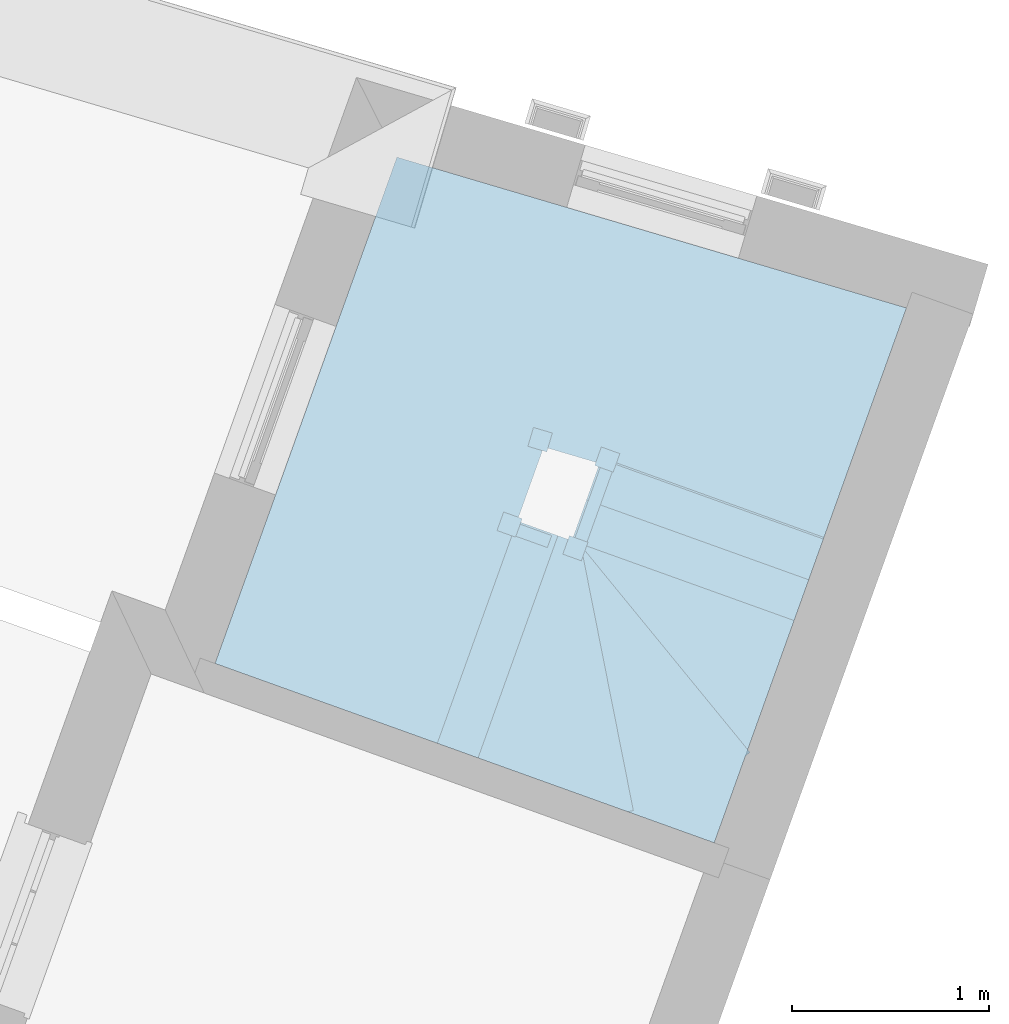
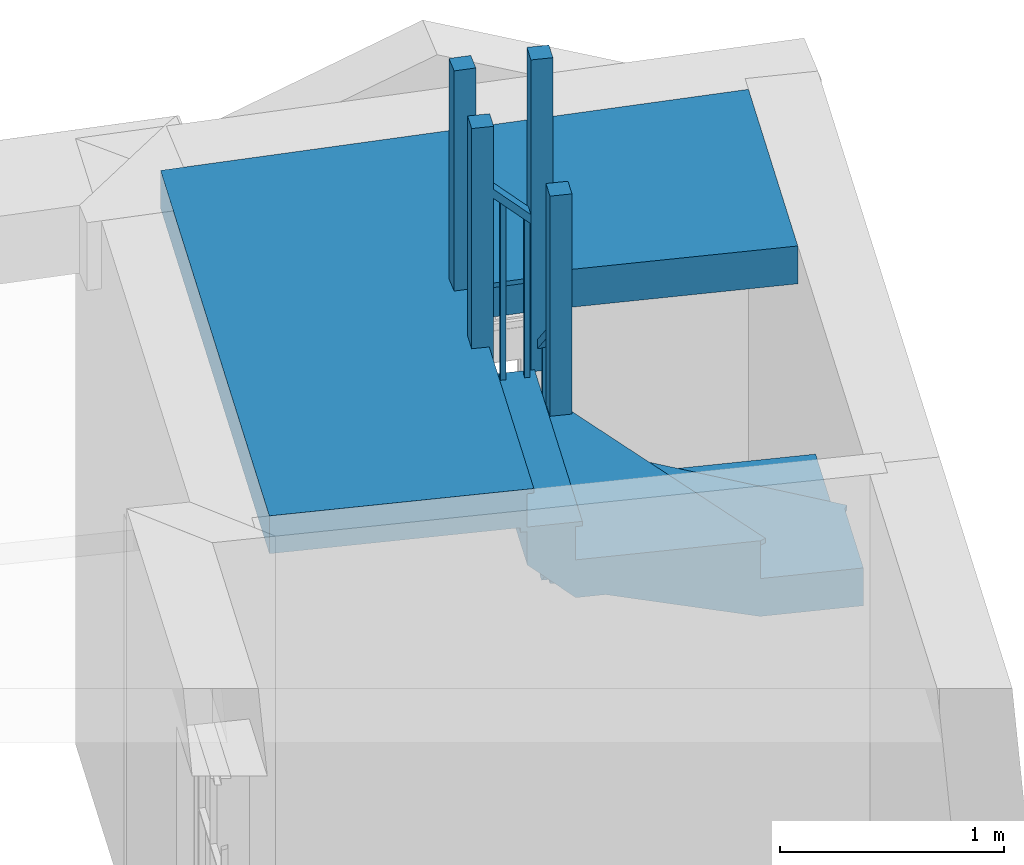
# One storey, part 4 of 4: 1 stair.
"""IFC4 building model written with IfcOpenShell, lengths in metres."""

import ifcopenshell
import ifcopenshell.guid

model = None  # the IFC model being written
_history = None  # IfcOwnerHistory: only IFC2X3 demands one
_inside = {}  # id of a spatial element -> (the spatial element, [elements in it])
_under = {}  # id of a project, library or spatial element -> (it, [spatial elements below it])
_declared = {}  # id of a project -> (the project, [libraries it declares])
_typed = {}  # id of a type object -> (the type object, [elements of that type])
_made_of = {}  # id of a material, layer set ... -> (it, [elements and type objects made of it])


def new_model(schema):
    """Start an empty IFC model of exactly this schema.

    Asked for "IFC4X3", IfcOpenShell would pick the latest addendum, in which some entities
    have other attributes; the version numbers below select the first issue.
    IFC2X3 requires an IfcOwnerHistory on every rooted entity: one is made here for all.
    """
    global model, _history
    if schema == "IFC4X3":
        model = ifcopenshell.file(schema_version=(4, 3, 0, 0))
    else:
        model = ifcopenshell.file(schema=schema)
    _inside.clear()
    _under.clear()
    _declared.clear()
    _typed.clear()
    _made_of.clear()
    _history = None
    if model.schema == "IFC2X3":
        org = make("IfcOrganization", Name="unknown")
        user = make(
            "IfcPersonAndOrganization",
            ThePerson=make("IfcPerson", FamilyName="unknown"),
            TheOrganization=org,
        )
        app = make(
            "IfcApplication",
            ApplicationDeveloper=org,
            Version="unknown",
            ApplicationFullName="unknown",
            ApplicationIdentifier="unknown",
        )
        _history = make(
            "IfcOwnerHistory",
            OwningUser=user,
            OwningApplication=app,
            ChangeAction="ADDED",
            CreationDate=0,
        )
    return model


def make(cls, **values):
    """One entity of the class cls with the attributes given. An attribute that is None is left unset."""
    return model.create_entity(
        cls, **{name: value for name, value in values.items() if value is not None}
    )


def rooted(cls, **values):
    """An entity with a GlobalId (a new one), such as an element, a storey or a relation."""
    return make(cls, GlobalId=ifcopenshell.guid.new(), OwnerHistory=_history, **values)


def si_unit(unit_type, name, prefix=None):
    """IfcSIUnit, for example si_unit("LENGTHUNIT", "METRE", prefix="MILLI")."""
    return make("IfcSIUnit", UnitType=unit_type, Prefix=prefix, Name=name)


def assignment(units):
    """IfcUnitAssignment: the units of a project."""
    return None if units is None else make("IfcUnitAssignment", Units=units)


def point(xyz):
    """IfcCartesianPoint."""
    return None if xyz is None else make("IfcCartesianPoint", Coordinates=xyz)


def direction(xyz):
    """IfcDirection."""
    return None if xyz is None else make("IfcDirection", DirectionRatios=xyz)


def frame(location, z_axis=None, x_axis=None):
    """IfcAxis2Placement3D, a coordinate frame: its origin and axes. An axis left out is left unset."""
    return make(
        "IfcAxis2Placement3D",
        Location=point(location),
        Axis=direction(z_axis),
        RefDirection=direction(x_axis),
    )


def origin():
    """The frame at (0, 0, 0) with its axes left unset."""
    return frame((0.0, 0.0, 0.0))


def origin_with_axes():
    """The frame at (0, 0, 0) with the z axis (0, 0, 1) and the x axis (1, 0, 0) written out."""
    return frame((0.0, 0.0, 0.0), z_axis=(0.0, 0.0, 1.0), x_axis=(1.0, 0.0, 0.0))


def place(relative_to, where):
    """IfcLocalPlacement: puts the frame where relative to a parent placement (None: the world)."""
    return make(
        "IfcLocalPlacement", PlacementRelTo=relative_to, RelativePlacement=where
    )


def context(
    kind, dimensions, precision=None, world=None, true_north=None, identifier=None
):
    """IfcGeometricRepresentationContext, for example the 3D "Model" context."""
    return make(
        "IfcGeometricRepresentationContext",
        ContextIdentifier=identifier,
        ContextType=kind,
        CoordinateSpaceDimension=dimensions,
        Precision=precision,
        WorldCoordinateSystem=world,
        TrueNorth=true_north,
    )


def subcontext(parent, identifier, kind, view, scale=None):
    """IfcGeometricRepresentationSubContext, for example "Body" below "Model"."""
    return make(
        "IfcGeometricRepresentationSubContext",
        ContextIdentifier=identifier,
        ContextType=kind,
        ParentContext=parent,
        TargetScale=scale,
        TargetView=view,
    )


def project(units=None, contexts=None):
    """IfcProject with its units and contexts."""
    return rooted(
        "IfcProject",
        Name="project",
        RepresentationContexts=contexts,
        UnitsInContext=assignment(units),
    )


def spatial(cls, under=None, at=None, **own):
    """A site, building, storey or space (cls), placed at a placement, below another one or the project."""
    s = rooted(cls, ObjectPlacement=at, **own)
    if under is not None:
        _under.setdefault(under.id(), (under, []))[1].append(s)
    return s


def faces_of(points, faces, orient=None, outer=None):
    """IfcFace entities. A face is a list of loops; a loop is a list of indices into points, from 0.

    orient and outer hold one flag for each loop. By default every Orientation is true, the
    first loop of a face is its IfcFaceOuterBound and the others are IfcFaceBound.
    """
    made = []
    for i, loops in enumerate(faces):
        bounds = []
        for j, loop in enumerate(loops):
            is_outer = j == 0 if outer is None else outer[i][j]
            bounds.append(
                make(
                    "IfcFaceOuterBound" if is_outer else "IfcFaceBound",
                    Bound=make("IfcPolyLoop", Polygon=[points[k] for k in loop]),
                    Orientation=True if orient is None else orient[i][j],
                )
            )
        made.append(make("IfcFace", Bounds=bounds))
    return made


def faceted_brep(points, faces, orient=None, outer=None, voids=None):
    """IfcFacetedBrep: a solid bounded by flat faces; with voids (closed shells), ...WithVoids."""
    shared = [point(p) for p in points]
    hull = make("IfcClosedShell", CfsFaces=faces_of(shared, faces, orient, outer))
    if voids is None:
        return make("IfcFacetedBrep", Outer=hull)
    return make(
        "IfcFacetedBrepWithVoids",
        Outer=hull,
        Voids=[
            make(cls, CfsFaces=faces_of(shared, fs, o, b)) for cls, fs, o, b in voids
        ],
    )


def shape(context_of_items, identifier, shape_type, items):
    """IfcShapeRepresentation: the items that make up one representation, for example the "Body"."""
    return make(
        "IfcShapeRepresentation",
        ContextOfItems=context_of_items,
        RepresentationIdentifier=identifier,
        RepresentationType=shape_type,
        Items=items,
    )


def made_of(thing, what):
    """Note that an element or type object is made of a material, layer set ...; save() writes the relation."""
    if what is not None:
        _made_of.setdefault(what.id(), (what, []))[1].append(thing)
    return thing


def element(
    cls,
    number,
    at=None,
    inside=None,
    cuts=None,
    type_object=None,
    material=None,
    context=None,
    identifier="Body",
    shape_type=None,
    held_by="IfcProductDefinitionShape",
    body=None,
    shapes=None,
    **own,
):
    """One element of the class cls, such as IfcWall. Its Tag is "e" and its number.

    at: its placement. inside: the storey or other place that contains it. cuts: it is an
    opening in that element (IfcRelVoidsElement). A single representation is given by context,
    identifier, shape_type and body (its items); several are given by shapes. held_by: the class
    of the entity that holds the representations. save() writes the other relations.
    """
    e = rooted(cls, Tag="e%d" % number, ObjectPlacement=at, **own)
    if body is not None:
        shapes = [shape(context, identifier, shape_type, body)]
    if shapes is not None:
        e.Representation = make(held_by, Representations=shapes)
    if inside is not None:
        _inside.setdefault(inside.id(), (inside, []))[1].append(e)
    if cuts is not None:
        rooted(
            "IfcRelVoidsElement", RelatingBuildingElement=cuts, RelatedOpeningElement=e
        )
    if type_object is not None:
        _typed.setdefault(type_object.id(), (type_object, []))[1].append(e)
    return made_of(e, material)


def aggregate(whole, parts):
    """IfcRelAggregates: a whole, such as a stair, and the parts it consists of."""
    return rooted("IfcRelAggregates", RelatingObject=whole, RelatedObjects=parts)


def save(model, path):
    """Write the relations noted so far, then the file.

    IfcRelAggregates (storeys below a building ...), IfcRelContainedInSpatialStructure (elements
    in a storey), IfcRelDefinesByType, IfcRelAssociatesMaterial and IfcRelDeclares: one each for
    every whole, place, type object, material and project.
    """
    for whole, parts in _under.values():
        aggregate(whole, parts)
    for where, things in _inside.values():
        rooted(
            "IfcRelContainedInSpatialStructure",
            RelatedElements=things,
            RelatingStructure=where,
        )
    for kind, things in _typed.values():
        rooted("IfcRelDefinesByType", RelatedObjects=things, RelatingType=kind)
    for what, things in _made_of.values():
        rooted("IfcRelAssociatesMaterial", RelatedObjects=things, RelatingMaterial=what)
    for by, libraries in _declared.values():
        rooted("IfcRelDeclares", RelatingContext=by, RelatedDefinitions=libraries)
    model.write(path)


model = new_model("IFC4")

# Units and contexts
model_context = context("Model", 3, world=origin_with_axes())
body_context = subcontext(model_context, "Body", "Model", "MODEL_VIEW")
ifc_project = project(units=[si_unit("PLANEANGLEUNIT", "RADIAN"), si_unit("MASSUNIT", "GRAM", prefix="KILO"), si_unit("FORCEUNIT", "NEWTON", prefix="KILO"), si_unit("LENGTHUNIT", "METRE"), si_unit("AREAUNIT", "SQUARE_METRE"), si_unit("VOLUMEUNIT", "CUBIC_METRE")], contexts=[model_context, model_context])

# Sites, building, storey
site_1_placement = place(None, origin_with_axes())
site_1 = spatial("IfcSite", under=ifc_project, at=site_1_placement, Name="Tamar")
site_2_placement = place(site_1_placement, origin_with_axes())
site_2 = spatial("IfcSite", under=site_1, at=site_2_placement, Name="Site plot-24", CompositionType="ELEMENT")
building_placement = place(None, origin_with_axes())
building = spatial("IfcBuilding", under=site_2, at=building_placement, Name="Building plot-24", CompositionType="ELEMENT")
storey_placement = place(None, frame((0.0, 0.0, 26.0), z_axis=(0.0, 0.0, 1.0), x_axis=(1.0, 0.0, 0.0)))
storey = spatial("IfcBuildingStorey", under=building, at=storey_placement, Name="plot-24 0", CompositionType="ELEMENT", Elevation=26.0)

# Stair
stair_placement = place(None, origin())
element("IfcStair", 1, at=stair_placement, inside=storey, Name="Stair", PredefinedType="NOTDEFINED", context=body_context, shape_type="Brep", body=[
    faceted_brep([(274.248224, 278.266553, 29.3), (273.147152, 278.662205, 29.3), (272.992165, 278.230887, 29.3), (274.093237, 277.835235, 29.3), (274.093237, 277.835235, 29.09375), (272.992165, 278.230887, 29.09375), (273.147152, 278.662205, 29.09375), (274.248224, 278.266553, 29.09375)], [[[0, 1, 2, 3]], [[4, 5, 6, 7]], [[7, 6, 1, 0]], [[6, 5, 2, 1]], [[5, 4, 3, 2]], [[4, 7, 0, 3]]]),
    faceted_brep([(274.12147, 277.82509, 29.275), (274.12147, 277.82509, 29.3), (274.093237, 277.835235, 29.275), (274.276456, 278.256408, 29.3), (274.276456, 278.256408, 29.275), (274.248224, 278.266553, 29.275), (274.093237, 277.835235, 29.3), (274.248224, 278.266553, 29.3)], [[[0, 1, 2]], [[3, 4, 5]], [[2, 1, 6]], [[3, 5, 7]], [[6, 1, 3, 7]], [[2, 6, 7, 5]], [[0, 2, 5, 4]], [[1, 0, 4, 3]]]),
    faceted_brep([(274.123383, 277.771272, 30.5), (274.157199, 277.865381, 30.5), (274.063091, 277.899197, 30.5), (274.029274, 277.805089, 30.5), (274.029274, 277.805089, 29.3), (274.063091, 277.899197, 29.3), (274.157199, 277.865381, 29.3), (274.123383, 277.771272, 29.3)], [[[0, 1, 2, 3]], [[4, 5, 6, 7]], [[7, 6, 1, 0]], [[6, 5, 2, 1]], [[5, 4, 3, 2]], [[4, 7, 0, 3]]]),
    faceted_brep([(274.093237, 277.835235, 29.3), (272.992165, 278.230887, 29.3), (272.596513, 277.129815, 29.3), (273.697585, 276.734163, 29.3), (273.697585, 276.734163, 29.09375), (272.596513, 277.129815, 29.09375), (272.992165, 278.230887, 29.09375), (274.093237, 277.835235, 29.09375)], [[[0, 1, 2, 3]], [[4, 5, 6, 7]], [[7, 6, 1, 0]], [[6, 5, 2, 1]], [[5, 4, 3, 2]], [[4, 7, 0, 3]]]),
    faceted_brep([(273.725818, 276.724018, 29.275), (273.725818, 276.724018, 29.3), (273.697585, 276.734163, 29.275), (274.12147, 277.82509, 29.3), (274.12147, 277.82509, 29.275), (274.093237, 277.835235, 29.275), (273.697585, 276.734163, 29.3), (274.093237, 277.835235, 29.3)], [[[0, 1, 2]], [[3, 4, 5]], [[2, 1, 6]], [[3, 5, 7]], [[6, 1, 3, 7]], [[2, 6, 7, 5]], [[0, 2, 5, 4]], [[1, 0, 4, 3]]]),
    faceted_brep([(274.123383, 277.771272, 29.3), (274.157199, 277.865381, 29.3), (274.063091, 277.899197, 29.3), (274.029274, 277.805089, 29.3), (274.029274, 277.805089, 28.8), (274.063091, 277.899197, 28.8), (274.157199, 277.865381, 28.8), (274.123383, 277.771272, 28.8)], [[[0, 1, 2, 3]], [[4, 5, 6, 7]], [[7, 6, 1, 0]], [[6, 5, 2, 1]], [[5, 4, 3, 2]], [[4, 7, 0, 3]]]),
    faceted_brep([(274.093237, 277.835235, 29.09375), (273.697585, 276.734163, 29.09375), (273.904624, 276.659767, 29.09375), (274.300276, 277.760839, 29.09375), (274.300276, 277.760839, 28.68125), (273.904624, 276.659767, 28.68125), (273.697585, 276.734163, 28.8875), (274.093237, 277.835235, 28.8875)], [[[0, 1, 2, 3]], [[4, 5, 6, 7]], [[7, 6, 1, 0]], [[1, 6, 5, 2]], [[5, 4, 3, 2]], [[3, 4, 7, 0]]]),
    faceted_brep([(273.904624, 276.659767, 29.06875), (273.932857, 276.649622, 29.06875), (273.904624, 276.659767, 29.09375), (273.669352, 276.744308, 29.06875), (273.697585, 276.734163, 29.06875), (273.697585, 276.734163, 29.09375), (273.932857, 276.649622, 29.09375), (273.669352, 276.744308, 29.09375), (274.338654, 277.778926, 29.09375), (274.300276, 277.760839, 29.09375), (274.300276, 277.760839, 29.06875), (274.338654, 277.778926, 29.06875), (274.075149, 277.873612, 29.09375), (274.093237, 277.835235, 29.09375), (274.093237, 277.835235, 29.06875), (274.075149, 277.873612, 29.06875)], [[[0, 1, 2]], [[3, 4, 5]], [[1, 6, 2]], [[7, 3, 5]], [[2, 6, 8, 9]], [[0, 2, 9, 10]], [[1, 0, 10, 11]], [[6, 1, 11, 8]], [[9, 8, 12, 13]], [[10, 9, 13, 14]], [[11, 10, 14, 15]], [[8, 11, 15, 12]], [[13, 12, 7, 5]], [[14, 13, 5, 4]], [[15, 14, 4, 3]], [[12, 15, 3, 7]]]),
    faceted_brep([(274.300276, 277.760839, 29.99375), (274.276749, 277.769293, 29.99375), (274.268295, 277.745766, 29.99375), (274.291822, 277.737312, 29.99375), (274.291822, 277.737312, 29.09375), (274.268295, 277.745766, 29.09375), (274.276749, 277.769293, 29.09375), (274.300276, 277.760839, 29.09375)], [[[0, 1, 2, 3]], [[4, 5, 6, 7]], [[7, 6, 1, 0]], [[6, 5, 2, 1]], [[5, 4, 3, 2]], [[4, 7, 0, 3]]]),
    faceted_brep([(274.196756, 277.798037, 30.096875), (274.173229, 277.806491, 30.096875), (274.164775, 277.782964, 30.096875), (274.188302, 277.77451, 30.096875), (274.188302, 277.77451, 29.09375), (274.164775, 277.782964, 29.09375), (274.173229, 277.806491, 29.09375), (274.196756, 277.798037, 29.09375)], [[[0, 1, 2, 3]], [[4, 5, 6, 7]], [[7, 6, 1, 0]], [[6, 5, 2, 1]], [[5, 4, 3, 2]], [[4, 7, 0, 3]]]),
    faceted_brep([(274.285059, 277.71849, 29.94375), (274.307039, 277.779661, 29.94375), (274.307039, 277.779661, 29.99375), (274.285059, 277.71849, 29.99375), (274.1, 277.854057, 30.15), (274.07802, 277.792886, 30.15), (274.07802, 277.792886, 30.2), (274.1, 277.854057, 30.2)], [[[0, 1, 2, 3]], [[4, 5, 6, 7]], [[0, 5, 4, 1]], [[3, 2, 7, 6]], [[0, 3, 6, 5]], [[2, 1, 4, 7]]]),
    faceted_brep([(274.300276, 277.760839, 28.8875), (273.904624, 276.659767, 28.8875), (274.031813, 276.614063, 28.8875), (274.427465, 277.715135, 28.8875), (274.427465, 277.715135, 28.68125), (274.031813, 276.614063, 28.68125), (273.904624, 276.659767, 28.68125), (274.300276, 277.760839, 28.68125)], [[[0, 1, 2, 3]], [[4, 5, 6, 7]], [[7, 6, 1, 0]], [[6, 5, 2, 1]], [[5, 4, 3, 2]], [[4, 7, 0, 3]]]),
    faceted_brep([(274.43761, 277.743368, 28.8625), (274.43761, 277.743368, 28.8875), (274.427465, 277.715135, 28.8625), (274.310421, 277.789071, 28.8875), (274.310421, 277.789071, 28.8625), (274.300276, 277.760839, 28.8625), (274.427465, 277.715135, 28.8875), (274.300276, 277.760839, 28.8875)], [[[0, 1, 2]], [[3, 4, 5]], [[2, 1, 6]], [[3, 5, 7]], [[6, 1, 3, 7]], [[2, 6, 7, 5]], [[0, 2, 5, 4]], [[1, 0, 4, 3]]]),
    faceted_brep([(274.491428, 277.745282, 30.0875), (274.397319, 277.779098, 30.0875), (274.363503, 277.684989, 30.0875), (274.457612, 277.651173, 30.0875), (274.457612, 277.651173, 28.8875), (274.363503, 277.684989, 28.8875), (274.397319, 277.779098, 28.8875), (274.491428, 277.745282, 28.8875)], [[[0, 1, 2, 3]], [[4, 5, 6, 7]], [[7, 6, 1, 0]], [[6, 5, 2, 1]], [[5, 4, 3, 2]], [[4, 7, 0, 3]]]),
    faceted_brep([(274.031813, 276.614063, 28.8875), (274.692457, 276.376672, 28.8875), (274.427465, 277.715135, 28.8875), (274.427465, 277.715135, 28.475), (274.692457, 276.376672, 28.475), (274.031813, 276.614063, 28.68125)], [[[0, 1, 2]], [[3, 4, 5]], [[0, 5, 4, 1]], [[4, 3, 2, 1]], [[2, 3, 5, 0]]]),
    faceted_brep([(274.721885, 276.382499, 28.8625), (274.721885, 276.382499, 28.8875), (274.692457, 276.376672, 28.8625), (274.456894, 277.720962, 28.8875), (274.456894, 277.720962, 28.8625), (274.427465, 277.715135, 28.8625), (274.692457, 276.376672, 28.8875), (274.427465, 277.715135, 28.8875)], [[[0, 1, 2]], [[3, 4, 5]], [[2, 1, 6]], [[3, 5, 7]], [[6, 1, 3, 7]], [[2, 6, 7, 5]], [[0, 2, 5, 4]], [[1, 0, 4, 3]]]),
    faceted_brep([(274.692457, 276.376672, 28.68125), (275.132885, 276.218411, 28.68125), (275.291146, 276.65884, 28.68125), (274.427465, 277.715135, 28.68125), (274.427465, 277.715135, 28.26875), (275.291146, 276.65884, 28.26875), (275.132885, 276.218411, 28.475), (274.692457, 276.376672, 28.475)], [[[0, 1, 2, 3]], [[4, 5, 6, 7]], [[7, 6, 1, 0]], [[1, 6, 5, 2]], [[5, 4, 3, 2]], [[3, 4, 7, 0]]]),
    faceted_brep([(275.314371, 276.67783, 28.65625), (275.314371, 276.67783, 28.68125), (275.291146, 276.65884, 28.65625), (274.45069, 277.734125, 28.68125), (274.45069, 277.734125, 28.65625), (274.427465, 277.715135, 28.65625), (275.291146, 276.65884, 28.68125), (274.427465, 277.715135, 28.68125)], [[[0, 1, 2]], [[3, 4, 5]], [[2, 1, 6]], [[3, 5, 7]], [[6, 1, 3, 7]], [[2, 6, 7, 5]], [[0, 2, 5, 4]], [[1, 0, 4, 3]]]),
    faceted_brep([(275.291146, 276.65884, 28.475), (275.528537, 277.319483, 28.475), (274.427465, 277.715135, 28.475), (274.427465, 277.715135, 28.0625), (275.528537, 277.319483, 28.0625), (275.291146, 276.65884, 28.26875)], [[[0, 1, 2]], [[3, 4, 5]], [[0, 5, 4, 1]], [[4, 3, 2, 1]], [[2, 3, 5, 0]]]),
    faceted_brep([(275.528537, 277.319483, 28.45), (275.538682, 277.347716, 28.45), (275.528537, 277.319483, 28.475), (274.43761, 277.743368, 28.45), (274.427465, 277.715135, 28.45), (274.427465, 277.715135, 28.475), (275.538682, 277.347716, 28.475), (274.43761, 277.743368, 28.475)], [[[0, 1, 2]], [[3, 4, 5]], [[1, 6, 2]], [[7, 3, 5]], [[2, 6, 7, 5]], [[0, 2, 5, 4]], [[1, 0, 4, 3]], [[6, 1, 3, 7]]]),
    faceted_brep([(274.491428, 277.745282, 28.8875), (274.397319, 277.779098, 28.8875), (274.363503, 277.684989, 28.8875), (274.457612, 277.651173, 28.8875), (274.457612, 277.651173, 27.975), (274.363503, 277.684989, 27.975), (274.397319, 277.779098, 27.975), (274.491428, 277.745282, 27.975)], [[[0, 1, 2, 3]], [[4, 5, 6, 7]], [[7, 6, 1, 0]], [[6, 5, 2, 1]], [[5, 4, 3, 2]], [[4, 7, 0, 3]]]),
    faceted_brep([(274.427465, 277.715135, 28.26875), (275.528537, 277.319483, 28.26875), (275.602933, 277.526523, 28.26875), (274.501861, 277.922175, 28.26875), (274.501861, 277.922175, 27.85625), (275.602933, 277.526523, 27.85625), (275.528537, 277.319483, 28.0625), (274.427465, 277.715135, 28.0625)], [[[0, 1, 2, 3]], [[4, 5, 6, 7]], [[7, 6, 1, 0]], [[1, 6, 5, 2]], [[5, 4, 3, 2]], [[3, 4, 7, 0]]]),
    faceted_brep([(275.602933, 277.526523, 28.24375), (275.613078, 277.554755, 28.24375), (275.602933, 277.526523, 28.26875), (275.518392, 277.291251, 28.24375), (275.528537, 277.319483, 28.24375), (275.528537, 277.319483, 28.26875), (275.613078, 277.554755, 28.26875), (275.518392, 277.291251, 28.26875), (274.483774, 277.960552, 28.26875), (274.501861, 277.922175, 28.26875), (274.501861, 277.922175, 28.24375), (274.483774, 277.960552, 28.24375), (274.389088, 277.697048, 28.26875), (274.427465, 277.715135, 28.26875), (274.427465, 277.715135, 28.24375), (274.389088, 277.697048, 28.24375)], [[[0, 1, 2]], [[3, 4, 5]], [[1, 6, 2]], [[7, 3, 5]], [[2, 6, 8, 9]], [[0, 2, 9, 10]], [[1, 0, 10, 11]], [[6, 1, 11, 8]], [[9, 8, 12, 13]], [[10, 9, 13, 14]], [[11, 10, 14, 15]], [[8, 11, 15, 12]], [[13, 12, 7, 5]], [[14, 13, 5, 4]], [[15, 14, 4, 3]], [[12, 15, 3, 7]]]),
    faceted_brep([(274.501861, 277.922175, 29.16875), (274.493407, 277.898647, 29.16875), (274.516935, 277.890193, 29.16875), (274.525389, 277.91372, 29.16875), (274.525389, 277.91372, 28.26875), (274.516935, 277.890193, 28.26875), (274.493407, 277.898647, 28.26875), (274.501861, 277.922175, 28.26875)], [[[0, 1, 2, 3]], [[4, 5, 6, 7]], [[7, 6, 1, 0]], [[6, 5, 2, 1]], [[5, 4, 3, 2]], [[4, 7, 0, 3]]]),
    faceted_brep([(274.464663, 277.818655, 29.271875), (274.456209, 277.795128, 29.271875), (274.479736, 277.786674, 29.271875), (274.488191, 277.810201, 29.271875), (274.488191, 277.810201, 28.26875), (274.479736, 277.786674, 28.26875), (274.456209, 277.795128, 28.26875), (274.464663, 277.818655, 28.26875)], [[[0, 1, 2, 3]], [[4, 5, 6, 7]], [[7, 6, 1, 0]], [[6, 5, 2, 1]], [[5, 4, 3, 2]], [[4, 7, 0, 3]]]),
    faceted_brep([(274.54421, 277.906957, 29.11875), (274.48304, 277.928938, 29.11875), (274.48304, 277.928938, 29.16875), (274.54421, 277.906957, 29.16875), (274.408644, 277.721899, 29.325), (274.469814, 277.699918, 29.325), (274.469814, 277.699918, 29.375), (274.408644, 277.721899, 29.375)], [[[0, 1, 2, 3]], [[4, 5, 6, 7]], [[0, 5, 4, 1]], [[3, 2, 7, 6]], [[0, 3, 6, 5]], [[2, 1, 4, 7]]]),
    faceted_brep([(274.501861, 277.922175, 28.0625), (275.602933, 277.526523, 28.0625), (275.67733, 277.733562, 28.0625), (274.576258, 278.129214, 28.0625), (274.576258, 278.129214, 27.65), (275.67733, 277.733562, 27.65), (275.602933, 277.526523, 27.85625), (274.501861, 277.922175, 27.85625)], [[[0, 1, 2, 3]], [[4, 5, 6, 7]], [[7, 6, 1, 0]], [[1, 6, 5, 2]], [[5, 4, 3, 2]], [[3, 4, 7, 0]]]),
    faceted_brep([(275.687474, 277.761794, 28.0375), (275.687474, 277.761794, 28.0625), (275.67733, 277.733562, 28.0375), (275.592789, 277.49829, 28.0625), (275.592789, 277.49829, 28.0375), (275.602933, 277.526523, 28.0375), (275.67733, 277.733562, 28.0625), (275.602933, 277.526523, 28.0625), (274.55817, 278.167591, 28.0625), (274.576258, 278.129214, 28.0625), (274.576258, 278.129214, 28.0375), (274.55817, 278.167591, 28.0375), (274.463484, 277.904087, 28.0625), (274.501861, 277.922175, 28.0625), (274.501861, 277.922175, 28.0375), (274.463484, 277.904087, 28.0375)], [[[0, 1, 2]], [[3, 4, 5]], [[2, 1, 6]], [[3, 5, 7]], [[6, 1, 8, 9]], [[2, 6, 9, 10]], [[0, 2, 10, 11]], [[1, 0, 11, 8]], [[9, 8, 12, 13]], [[10, 9, 13, 14]], [[11, 10, 14, 15]], [[8, 11, 15, 12]], [[13, 12, 3, 7]], [[14, 13, 7, 5]], [[15, 14, 5, 4]], [[12, 15, 4, 3]]]),
    faceted_brep([(274.576258, 278.129214, 28.9625), (274.567803, 278.105687, 28.9625), (274.591331, 278.097232, 28.9625), (274.599785, 278.12076, 28.9625), (274.599785, 278.12076, 28.0625), (274.591331, 278.097232, 28.0625), (274.567803, 278.105687, 28.0625), (274.576258, 278.129214, 28.0625)], [[[0, 1, 2, 3]], [[4, 5, 6, 7]], [[7, 6, 1, 0]], [[6, 5, 2, 1]], [[5, 4, 3, 2]], [[4, 7, 0, 3]]]),
    faceted_brep([(274.53906, 278.025694, 29.065625), (274.530605, 278.002167, 29.065625), (274.554133, 277.993713, 29.065625), (274.562587, 278.01724, 29.065625), (274.562587, 278.01724, 28.0625), (274.554133, 277.993713, 28.0625), (274.530605, 278.002167, 28.0625), (274.53906, 278.025694, 28.0625)], [[[0, 1, 2, 3]], [[4, 5, 6, 7]], [[7, 6, 1, 0]], [[6, 5, 2, 1]], [[5, 4, 3, 2]], [[4, 7, 0, 3]]]),
    faceted_brep([(274.618606, 278.113996, 28.9125), (274.557436, 278.135977, 28.9125), (274.557436, 278.135977, 28.9625), (274.618606, 278.113996, 28.9625), (274.48304, 277.928938, 29.11875), (274.54421, 277.906957, 29.11875), (274.54421, 277.906957, 29.16875), (274.48304, 277.928938, 29.16875)], [[[0, 1, 2, 3]], [[4, 5, 6, 7]], [[0, 5, 4, 1]], [[3, 2, 7, 6]], [[0, 3, 6, 5]], [[2, 1, 4, 7]]]),
    faceted_brep([(274.576258, 278.129214, 27.85625), (275.67733, 277.733562, 27.85625), (275.69041, 277.769963, 27.85625), (274.589338, 278.165615, 27.85625), (274.589338, 278.165615, 27.65), (275.69041, 277.769963, 27.65), (275.67733, 277.733562, 27.65), (274.576258, 278.129214, 27.65)], [[[0, 1, 2, 3]], [[4, 5, 6, 7]], [[7, 6, 1, 0]], [[6, 5, 2, 1]], [[5, 4, 3, 2]], [[4, 7, 0, 3]]]),
    faceted_brep([(274.589338, 278.165615, 27.83125), (274.561105, 278.175759, 27.83125), (274.589338, 278.165615, 27.85625), (274.548025, 278.139359, 27.83125), (274.576258, 278.129214, 27.83125), (274.576258, 278.129214, 27.85625), (274.561105, 278.175759, 27.85625), (274.548025, 278.139359, 27.85625)], [[[0, 1, 2]], [[3, 4, 5]], [[1, 6, 2]], [[7, 3, 5]], [[2, 6, 7, 5]], [[0, 2, 5, 4]], [[1, 0, 4, 3]], [[6, 1, 3, 7]]]),
    faceted_brep([(274.559191, 278.229577, 30.5), (274.525375, 278.135468, 30.5), (274.619484, 278.101652, 30.5), (274.6533, 278.195761, 30.5), (274.6533, 278.195761, 29.3), (274.619484, 278.101652, 29.3), (274.525375, 278.135468, 29.3), (274.559191, 278.229577, 29.3)], [[[0, 1, 2, 3]], [[4, 5, 6, 7]], [[7, 6, 1, 0]], [[6, 5, 2, 1]], [[5, 4, 3, 2]], [[4, 7, 0, 3]]]),
    faceted_brep([(274.589338, 278.165615, 29.3), (275.69041, 277.769963, 29.3), (276.109394, 278.935967, 29.3), (274.92132, 279.287527, 29.3), (274.92132, 279.287527, 29.09375), (276.109394, 278.935967, 29.09375), (275.69041, 277.769963, 29.09375), (274.589338, 278.165615, 29.09375)], [[[0, 1, 2, 3]], [[4, 5, 6, 7]], [[7, 6, 1, 0]], [[6, 5, 2, 1]], [[5, 4, 3, 2]], [[4, 7, 0, 3]]]),
    faceted_brep([(274.892553, 279.296039, 29.275), (274.892553, 279.296039, 29.3), (274.92132, 279.287527, 29.275), (274.560571, 278.174127, 29.3), (274.560571, 278.174127, 29.275), (274.589338, 278.165615, 29.275), (274.92132, 279.287527, 29.3), (274.589338, 278.165615, 29.3)], [[[0, 1, 2]], [[3, 4, 5]], [[2, 1, 6]], [[3, 5, 7]], [[6, 1, 3, 7]], [[2, 6, 7, 5]], [[0, 2, 5, 4]], [[1, 0, 4, 3]]]),
    faceted_brep([(274.559191, 278.229577, 29.3), (274.525375, 278.135468, 29.3), (274.619484, 278.101652, 29.3), (274.6533, 278.195761, 29.3), (274.6533, 278.195761, 28.8), (274.619484, 278.101652, 28.8), (274.525375, 278.135468, 28.8), (274.559191, 278.229577, 28.8)], [[[0, 1, 2, 3]], [[4, 5, 6, 7]], [[7, 6, 1, 0]], [[6, 5, 2, 1]], [[5, 4, 3, 2]], [[4, 7, 0, 3]]]),
    faceted_brep([(274.589338, 278.165615, 29.3), (274.92132, 279.287527, 29.3), (274.580206, 279.388465, 29.3), (274.248224, 278.266553, 29.3), (274.248224, 278.266553, 29.09375), (274.580206, 279.388465, 29.09375), (274.92132, 279.287527, 29.09375), (274.589338, 278.165615, 29.09375)], [[[0, 1, 2, 3]], [[4, 5, 6, 7]], [[7, 6, 1, 0]], [[6, 5, 2, 1]], [[5, 4, 3, 2]], [[4, 7, 0, 3]]]),
    faceted_brep([(274.248224, 278.266553, 29.275), (274.239711, 278.237786, 29.275), (274.248224, 278.266553, 29.3), (274.580825, 278.136848, 29.275), (274.589338, 278.165615, 29.275), (274.589338, 278.165615, 29.3), (274.239711, 278.237786, 29.3), (274.580825, 278.136848, 29.3)], [[[0, 1, 2]], [[3, 4, 5]], [[1, 6, 2]], [[7, 3, 5]], [[2, 6, 7, 5]], [[0, 2, 5, 4]], [[1, 0, 4, 3]], [[6, 1, 3, 7]]]),
    faceted_brep([(274.186092, 278.232795, 30.5), (274.281982, 278.20442, 30.5), (274.310356, 278.30031, 30.5), (274.214466, 278.328685, 30.5), (274.214466, 278.328685, 29.3), (274.310356, 278.30031, 29.3), (274.281982, 278.20442, 29.3), (274.186092, 278.232795, 29.3)], [[[0, 1, 2, 3]], [[4, 5, 6, 7]], [[7, 6, 1, 0]], [[6, 5, 2, 1]], [[5, 4, 3, 2]], [[4, 7, 0, 3]]]),
    faceted_brep([(274.248224, 278.266553, 29.3), (274.580206, 279.388465, 29.3), (273.520771, 279.70196, 29.3), (273.147152, 278.662205, 29.3), (273.147152, 278.662205, 29.09375), (273.520771, 279.70196, 29.09375), (274.580206, 279.388465, 29.09375), (274.248224, 278.266553, 29.09375)], [[[0, 1, 2, 3]], [[4, 5, 6, 7]], [[7, 6, 1, 0]], [[6, 5, 2, 1]], [[5, 4, 3, 2]], [[4, 7, 0, 3]]]),
    faceted_brep([(273.137007, 278.633972, 29.275), (273.137007, 278.633972, 29.3), (273.147152, 278.662205, 29.275), (274.238079, 278.23832, 29.3), (274.238079, 278.23832, 29.275), (274.248224, 278.266553, 29.275), (273.147152, 278.662205, 29.3), (274.248224, 278.266553, 29.3)], [[[0, 1, 2]], [[3, 4, 5]], [[2, 1, 6]], [[3, 5, 7]], [[6, 1, 3, 7]], [[2, 6, 7, 5]], [[0, 2, 5, 4]], [[1, 0, 4, 3]]]),
    faceted_brep([(274.186092, 278.232795, 29.3), (274.281982, 278.20442, 29.3), (274.310356, 278.30031, 29.3), (274.214466, 278.328685, 29.3), (274.214466, 278.328685, 28.8), (274.310356, 278.30031, 28.8), (274.281982, 278.20442, 28.8), (274.186092, 278.232795, 28.8)], [[[0, 1, 2, 3]], [[4, 5, 6, 7]], [[7, 6, 1, 0]], [[6, 5, 2, 1]], [[5, 4, 3, 2]], [[4, 7, 0, 3]]]),
])

save(model, "model.ifc")
